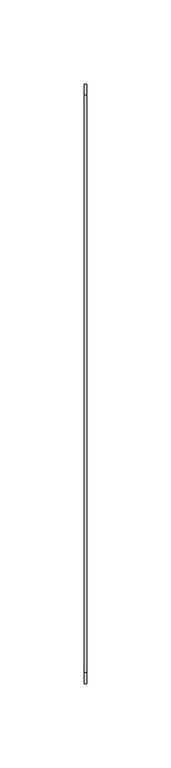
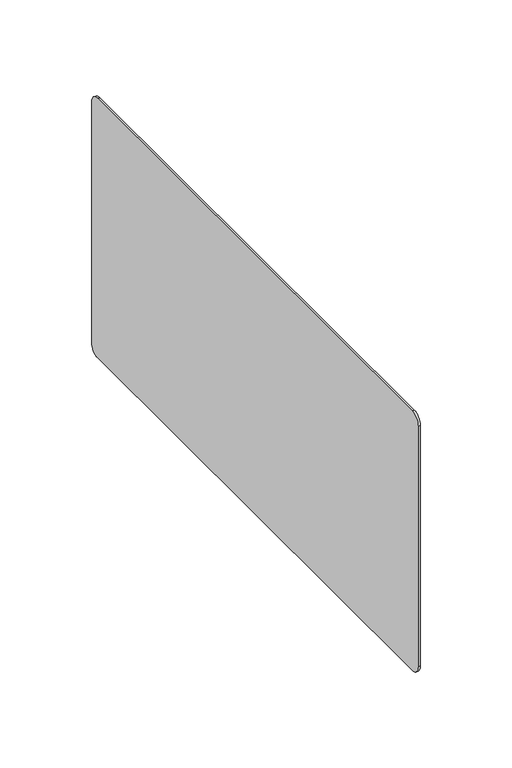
"""IFC4 building model written with IfcOpenShell, lengths in millimetres: furniture geometry, Steelcase Turnstone - Bivi - Arch Accessories - Markerboard : 14W x 6 7/8H."""

from ifc_helpers import new_model, si_unit, point, frame, frame_2d, origin, place, context, project, spatial, polyline, circle_curve, trimmed, segment, composite_curve, outline, extrude, source, transform, mapped, element, save


def furniture_1d392456(model_context):
    return source(origin(), model_context, "Body", "SweptSolid", [
        extrude(outline(composite_curve([segment(polyline([(61.8490046, 1061.8978), (404.7490046, 1061.8978)]), True, "CONTINUOUS"), segment(trimmed(circle_curve(frame_2d((404.7490046, 1055.5478)), 6.35), [point((404.7490046, 1061.8978))], [point((411.0990046, 1055.5478))], False, "CARTESIAN"), True, "CONTINUOUS"), segment(polyline([(411.0990046, 1055.5478), (411.0990046, 895.5278)]), True, "CONTINUOUS"), segment(trimmed(circle_curve(frame_2d((404.7490046, 895.5278)), 6.35), [point((411.0990046, 895.5278))], [point((404.7490046, 889.1778))], False, "CARTESIAN"), True, "CONTINUOUS"), segment(polyline([(404.7490046, 889.1778), (61.8490046, 889.1778)]), True, "CONTINUOUS"), segment(trimmed(circle_curve(frame_2d((61.8490046, 895.5278)), 6.35), [point((61.8490046, 889.1778))], [point((55.4990046, 895.5278))], False, "CARTESIAN"), True, "CONTINUOUS"), segment(polyline([(55.4990046, 895.5278), (55.4990046, 1055.5478)]), True, "CONTINUOUS"), segment(trimmed(circle_curve(frame_2d((61.8490046, 1055.5478)), 6.35), [point((55.4990046, 1055.5478))], [point((61.8490046, 1061.8978))], False, "CARTESIAN"), True, "CONTINUOUS")], self_intersect=False)), frame((-3.5306, 0.0, 0.0), z_axis=(1.0, 0.0, 0.0), x_axis=(0.0, 1.0, 0.0)), (0.0, 0.0, 1.0), 1.3716),
    ])


if __name__ == "__main__":
    model = new_model("IFC4")
    model_context = context("Model", 3, world=origin())
    ifc_project = project(units=[si_unit("LENGTHUNIT", "METRE", prefix="MILLI")], contexts=[model_context])
    site = spatial("IfcSite", under=ifc_project)
    building = spatial("IfcBuilding", under=site)
    placement = place(None, origin())
    furniture_shape = furniture_1d392456(model_context)
    element("IfcFurniture", 1, ObjectType="Steelcase Turnstone - Bivi - Arch Accessories - Markerboard : 14W x 6 7/8H", at=placement, inside=building, context=model_context, shape_type="MappedRepresentation", body=[
        mapped(furniture_shape, transform((0.0, 0.0, 0.0), x_axis=(1.0, 0.0, 0.0), y_axis=(0.0, 1.0, 0.0), z_axis=(0.0, 0.0, 1.0))),
    ])
    save(model, "model.ifc")
